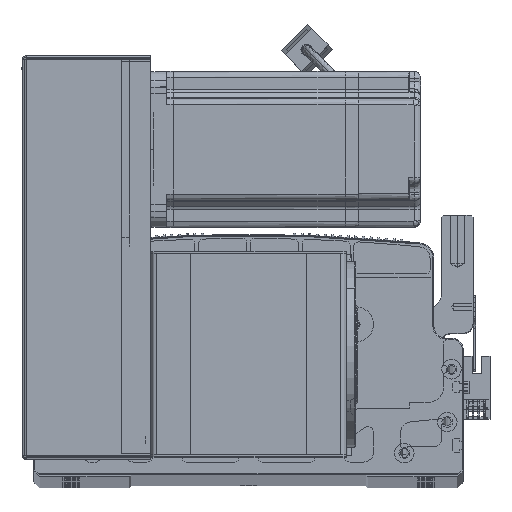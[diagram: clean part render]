
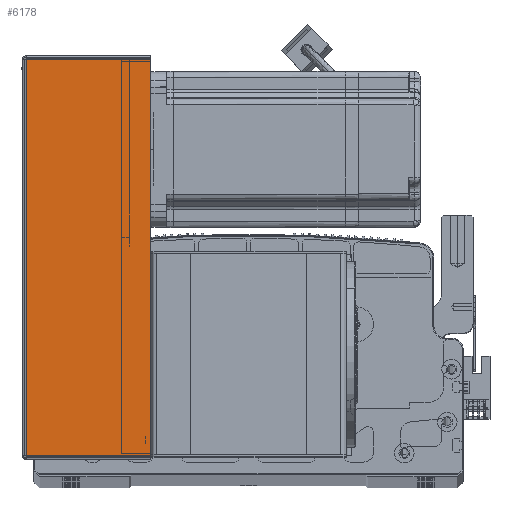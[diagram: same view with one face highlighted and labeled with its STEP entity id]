
A CAD part, top view. The second image highlights one B-rep face of the part: STEP entity #6178.
In plain terms, the highlighted planar face has unit normal (0, 0, 1) as drawn and (0, 1, 0) by its records, which use the part's own axes.
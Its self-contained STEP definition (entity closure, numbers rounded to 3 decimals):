
#1419 = VERTEX_POINT ( 'NONE', #36969 ) ;
#2253 = LINE ( 'NONE', #72986, #15614 ) ;
#5028 = DIRECTION ( 'NONE',  ( 1., 0., 0. ) ) ;
#6164 = VECTOR ( 'NONE', #58410, 1000. ) ;
#6178 = ADVANCED_FACE ( 'NONE', ( #30714 ), #41870, .F. ) ;
#10487 = CARTESIAN_POINT ( 'NONE',  ( 0.737, 107.5, 0. ) ) ;
#12351 = ORIENTED_EDGE ( 'NONE', *, *, #52977, .F. ) ;
#15614 = VECTOR ( 'NONE', #65901, 1000. ) ;
#18485 = ORIENTED_EDGE ( 'NONE', *, *, #89612, .T. ) ;
#18789 = EDGE_CURVE ( 'NONE', #44703, #43698, #80263, .T. ) ;
#20218 = ORIENTED_EDGE ( 'NONE', *, *, #51848, .T. ) ;
#22324 = LINE ( 'NONE', #34121, #38066 ) ;
#28222 = CARTESIAN_POINT ( 'NONE',  ( 0.737, 107.5, -203.293 ) ) ;
#30714 = FACE_OUTER_BOUND ( 'NONE', #37089, .T. ) ;
#34121 = CARTESIAN_POINT ( 'NONE',  ( 0., 107.5, -0.707 ) ) ;
#35621 = CARTESIAN_POINT ( 'NONE',  ( 0., 107.5, -203.293 ) ) ;
#36969 = CARTESIAN_POINT ( 'NONE',  ( 64.5, 107.5, -0.707 ) ) ;
#37089 = EDGE_LOOP ( 'NONE', ( #42349, #18485, #20218, #12351 ) ) ;
#38066 = VECTOR ( 'NONE', #40991, 1000. ) ;
#40991 = DIRECTION ( 'NONE',  ( 1., 0., 0. ) ) ;
#41870 = PLANE ( 'NONE',  #84270 ) ;
#42349 = ORIENTED_EDGE ( 'NONE', *, *, #18789, .F. ) ;
#43698 = VERTEX_POINT ( 'NONE', #28222 ) ;
#44703 = VERTEX_POINT ( 'NONE', #82345 ) ;
#51848 = EDGE_CURVE ( 'NONE', #1419, #96168, #2253, .T. ) ;
#51899 = LINE ( 'NONE', #35621, #71217 ) ;
#52977 = EDGE_CURVE ( 'NONE', #43698, #96168, #51899, .T. ) ;
#58410 = DIRECTION ( 'NONE',  ( 0., 0., -1. ) ) ;
#65621 = DIRECTION ( 'NONE',  ( 1., 0., 0. ) ) ;
#65901 = DIRECTION ( 'NONE',  ( 0., 0., -1. ) ) ;
#71217 = VECTOR ( 'NONE', #5028, 1000. ) ;
#72266 = CARTESIAN_POINT ( 'NONE',  ( 64.5, 107.5, -203.293 ) ) ;
#72986 = CARTESIAN_POINT ( 'NONE',  ( 64.5, 107.5, -204. ) ) ;
#80263 = LINE ( 'NONE', #10487, #6164 ) ;
#81193 = DIRECTION ( 'NONE',  ( 0., -1., 0. ) ) ;
#82345 = CARTESIAN_POINT ( 'NONE',  ( 0.737, 107.5, -0.707 ) ) ;
#84270 = AXIS2_PLACEMENT_3D ( 'NONE', #88261, #81193, #65621 ) ;
#88261 = CARTESIAN_POINT ( 'NONE',  ( 0., 107.5, 0. ) ) ;
#89612 = EDGE_CURVE ( 'NONE', #44703, #1419, #22324, .T. ) ;
#96168 = VERTEX_POINT ( 'NONE', #72266 ) ;
